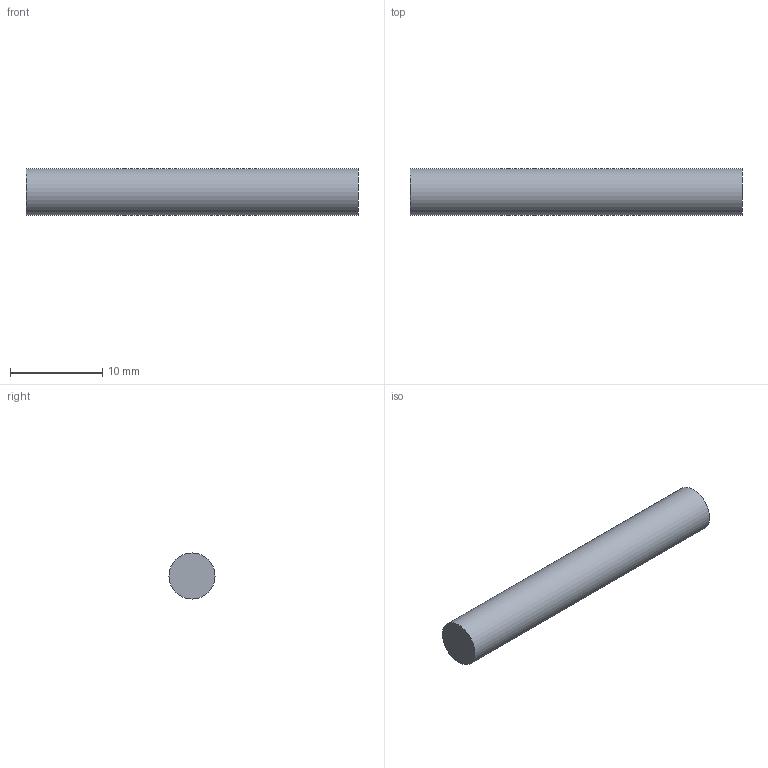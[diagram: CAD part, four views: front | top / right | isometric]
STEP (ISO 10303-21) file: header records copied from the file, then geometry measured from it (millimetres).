
FILE_DESCRIPTION(('Open CASCADE Model'),'2;1');
FILE_NAME('Open CASCADE Shape Model','2026-10-16T19:20:09',('Author'),( 'Open CASCADE'),'Open CASCADE STEP processor 7.8','Open CASCADE 7.8' ,'Unknown');
FILE_SCHEMA(('AUTOMOTIVE_DESIGN { 1 0 10303 214 1 1 1 1 }'));
Length unit declared in the file: millimetre
Products named in the file (1): Open CASCADE STEP translator 7.8 42
Bounding box: 36 x 5 x 5 mm (x, y, z)
Volume: 706.9 mm3; surface area: 604.8 mm2
Topology: 1 solids, 1 shells, 3 faces, 3 edges, 2 vertices
Faces by surface type: plane 2, cylinder 1
Full cylindrical faces by diameter (mm): 5 x1
Entity records: 108 total; most frequent: DIRECTION 19, CARTESIAN_POINT 15, AXIS2_PLACEMENT_3D 6, ORIENTED_EDGE 6, PCURVE 6, DEFINITIONAL_REPRESENTATION 6, LINE 5, VECTOR 5
